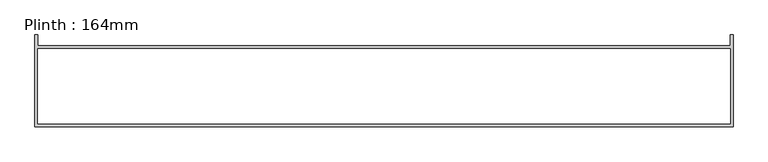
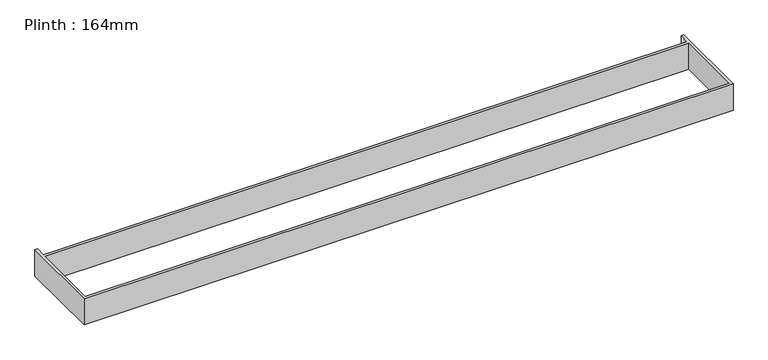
"""IFC4 building model written with IfcOpenShell, lengths in millimetres: furniture geometry, Plinth : 164mm."""

from ifc_helpers import new_model, si_unit, origin, origin_with_axes, place, context, project, spatial, polyline, outline, extrude, source, transform, mapped, element, save


def plinth_164mm_a440ec44(model_context):
    return source(origin(), model_context, "Body", "SweptSolid", [
        extrude(outline(polyline([(1964.7003264, -505.0), (-1875.2996736, -505.0), (-1875.2996736, 0.0), (-1859.2996736, 0.0), (-1859.2996736, -60.0), (-1795.2996736, -60.0), (1948.7003264, -60.0), (1948.7003264, 0.0), (1964.7003264, 0.0), (1964.7003264, -505.0)]), holes=[polyline([(1948.7003264, -76.0), (-1859.2996736, -76.0), (-1859.2996736, -489.0), (1948.7003264, -489.0), (1948.7003264, -76.0)])]), origin_with_axes(), (0.0, 0.0, 1.0), 164.0),
    ])


if __name__ == "__main__":
    model = new_model("IFC4")
    model_context = context("Model", 3, world=origin())
    ifc_project = project(units=[si_unit("LENGTHUNIT", "METRE", prefix="MILLI")], contexts=[model_context])
    site = spatial("IfcSite", under=ifc_project)
    building = spatial("IfcBuilding", under=site)
    placement = place(None, origin())
    plinth_164mm_shape = plinth_164mm_a440ec44(model_context)
    element("IfcFurniture", 1, ObjectType="Plinth : 164mm", at=placement, inside=building, context=model_context, shape_type="MappedRepresentation", body=[
        mapped(plinth_164mm_shape, transform((0.0, 0.0, 0.0), x_axis=(1.0, 0.0, 0.0), y_axis=(0.0, 1.0, 0.0), z_axis=(0.0, 0.0, 1.0))),
    ])
    save(model, "model.ifc")
